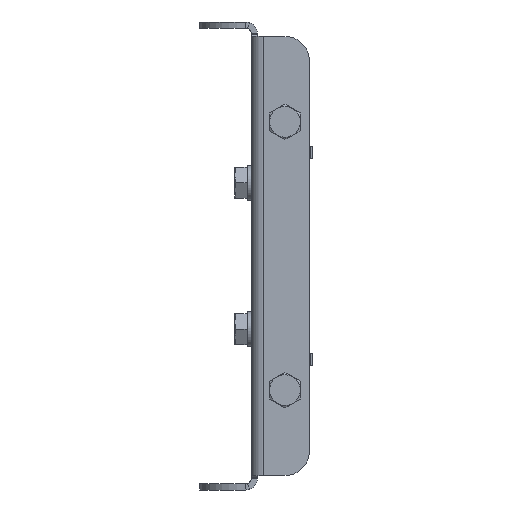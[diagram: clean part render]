
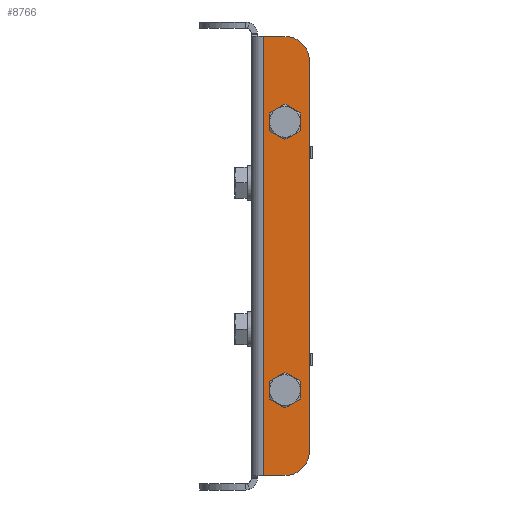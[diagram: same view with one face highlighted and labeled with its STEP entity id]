
A CAD part, left-side view. The second image highlights one B-rep face of the part: STEP entity #8766.
In plain terms, the highlighted planar face has unit normal (-1, 0, 0).
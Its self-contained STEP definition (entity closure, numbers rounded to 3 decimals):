
#7206=FACE_BOUND('',#10766,.T.);
#7207=FACE_BOUND('',#10767,.T.);
#7208=FACE_BOUND('',#10768,.T.);
#8144=PLANE('',#21928);
#8766=ADVANCED_FACE('',(#7206,#7207,#7208),#8144,.F.);
#10766=EDGE_LOOP('',(#14881,#14882,#14883,#14884,#14885,#14886));
#10767=EDGE_LOOP('',(#14887));
#10768=EDGE_LOOP('',(#14888));
#11818=LINE('',#29607,#12698);
#11822=LINE('',#29621,#12702);
#11827=LINE('',#29643,#12707);
#11828=LINE('',#29645,#12708);
#12698=VECTOR('',#24417,1.);
#12702=VECTOR('',#24429,1.);
#12707=VECTOR('',#24456,1.);
#12708=VECTOR('',#24459,1.);
#14881=ORIENTED_EDGE('',*,*,#19439,.F.);
#14882=ORIENTED_EDGE('',*,*,#19457,.T.);
#14883=ORIENTED_EDGE('',*,*,#19441,.T.);
#14884=ORIENTED_EDGE('',*,*,#19445,.T.);
#14885=ORIENTED_EDGE('',*,*,#19448,.F.);
#14886=ORIENTED_EDGE('',*,*,#19456,.F.);
#14887=ORIENTED_EDGE('',*,*,#19451,.T.);
#14888=ORIENTED_EDGE('',*,*,#19453,.F.);
#17832=VERTEX_POINT('',#29594);
#17834=VERTEX_POINT('',#29600);
#17836=VERTEX_POINT('',#29610);
#17838=VERTEX_POINT('',#29613);
#17840=VERTEX_POINT('',#29619);
#17842=VERTEX_POINT('',#29625);
#17845=VERTEX_POINT('',#29633);
#17847=VERTEX_POINT('',#29638);
#19439=EDGE_CURVE('',#17832,#17834,#11818,.T.);
#19441=EDGE_CURVE('',#17838,#17836,#20908,.T.);
#19445=EDGE_CURVE('',#17836,#17840,#11822,.T.);
#19448=EDGE_CURVE('',#17842,#17840,#20910,.T.);
#19451=EDGE_CURVE('',#17845,#17845,#20913,.T.);
#19453=EDGE_CURVE('',#17847,#17847,#20915,.T.);
#19456=EDGE_CURVE('',#17834,#17842,#11827,.T.);
#19457=EDGE_CURVE('',#17832,#17838,#11828,.T.);
#20908=CIRCLE('',#21913,12.7);
#20910=CIRCLE('',#21917,12.7);
#20913=CIRCLE('',#21921,5.461);
#20915=CIRCLE('',#21924,5.461);
#21913=AXIS2_PLACEMENT_3D('',#29612,#24421,#24422);
#21917=AXIS2_PLACEMENT_3D('',#29627,#24434,#24435);
#21921=AXIS2_PLACEMENT_3D('',#29632,#24442,#24443);
#21924=AXIS2_PLACEMENT_3D('',#29637,#24448,#24449);
#21928=AXIS2_PLACEMENT_3D('',#29646,#24460,#24461);
#24417=DIRECTION('',(0.,0.,1.));
#24421=DIRECTION('',(-1.,0.,0.));
#24422=DIRECTION('',(0.,1.,0.));
#24429=DIRECTION('',(0.,0.,1.));
#24434=DIRECTION('',(1.,0.,0.));
#24435=DIRECTION('',(0.,-1.,0.));
#24442=DIRECTION('',(1.,0.,0.));
#24443=DIRECTION('',(0.,1.,0.));
#24448=DIRECTION('',(-1.,0.,0.));
#24449=DIRECTION('',(0.,-1.,0.));
#24456=DIRECTION('',(0.,-1.,0.));
#24459=DIRECTION('',(0.,-1.,0.));
#24460=DIRECTION('',(1.,0.,0.));
#24461=DIRECTION('',(0.,1.,0.));
#29594=CARTESIAN_POINT('',(-45.641,98.425,1675.206));
#29600=CARTESIAN_POINT('',(-45.641,98.425,1903.806));
#29607=CARTESIAN_POINT('',(-45.641,98.425,1633.313));
#29610=CARTESIAN_POINT('',(-45.641,74.613,1687.906));
#29612=CARTESIAN_POINT('',(-45.641,87.313,1687.906));
#29613=CARTESIAN_POINT('',(-45.641,87.313,1675.206));
#29619=CARTESIAN_POINT('',(-45.641,74.613,1891.106));
#29621=CARTESIAN_POINT('',(-45.641,74.613,1633.313));
#29625=CARTESIAN_POINT('',(-45.641,87.313,1903.806));
#29627=CARTESIAN_POINT('',(-45.641,87.313,1891.106));
#29632=CARTESIAN_POINT('',(-45.641,87.313,1719.656));
#29633=CARTESIAN_POINT('',(-45.641,92.774,1719.656));
#29637=CARTESIAN_POINT('',(-45.641,87.313,1859.356));
#29638=CARTESIAN_POINT('',(-45.641,81.852,1859.356));
#29643=CARTESIAN_POINT('',(-45.641,38.171,1903.806));
#29645=CARTESIAN_POINT('',(-45.641,38.171,1675.206));
#29646=CARTESIAN_POINT('',(-45.641,38.171,1633.313));
